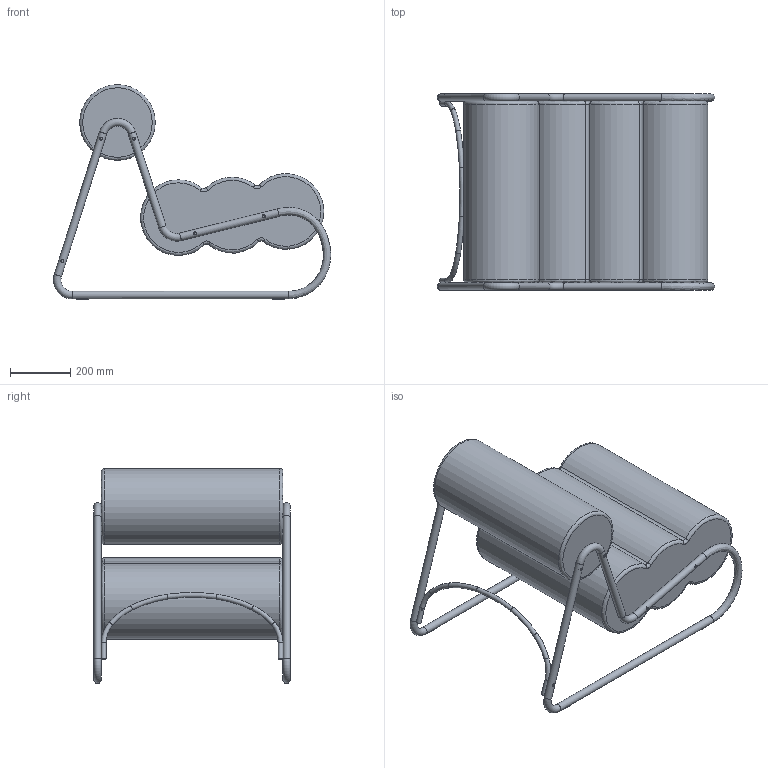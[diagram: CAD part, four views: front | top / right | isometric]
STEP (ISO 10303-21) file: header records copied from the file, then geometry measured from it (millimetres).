
FILE_DESCRIPTION(/* description */ (''),/* implementation_level */ '2;1');
FILE_NAME(/* name */ 'Fave Chair_SIMPLIFY.stp',/* time_stamp */ '2024-04-26T11:26:26+02:00',/* author */ ('UnoKofod'),/* organization */ (''),/* preprocessor_version */ 'ST-DEVELOPER v20',/* originating_system */ 'Autodesk Inventor 2024',/* authorisation */ '');
FILE_SCHEMA (('AUTOMOTIVE_DESIGN { 1 0 10303 214 3 1 1 }'));
Length unit declared in the file: millimetre
Products named in the file (2): Fave Chair; Fave Chair_Simplify_5
Assembly tree (1 placements, depth 2):
  Fave Chair
    Fave Chair_Simplify_5
Bounding box: 917.1 x 650.41 x 709.71 mm (x, y, z)
Volume: 110121060.1 mm3; surface area: 2221364.3 mm2
Topology: 22 solids, 22 shells, 230 faces, 524 edges, 346 vertices
Faces by surface type: cylinder 71, plane 62, bspline 52, torus 37, cone 8
Full cylindrical faces by diameter (mm): 4.2 x8, 6 x10, 8.9 x2, 10 x10, 16 x2, 25 x8, 250 x1
Entity records: 13229 total; most frequent: CARTESIAN_POINT 7891, ORIENTED_EDGE 1032, DIRECTION 1013, EDGE_CURVE 516, AXIS2_PLACEMENT_3D 448, VERTEX_POINT 346, CIRCLE 267, EDGE_LOOP 250
